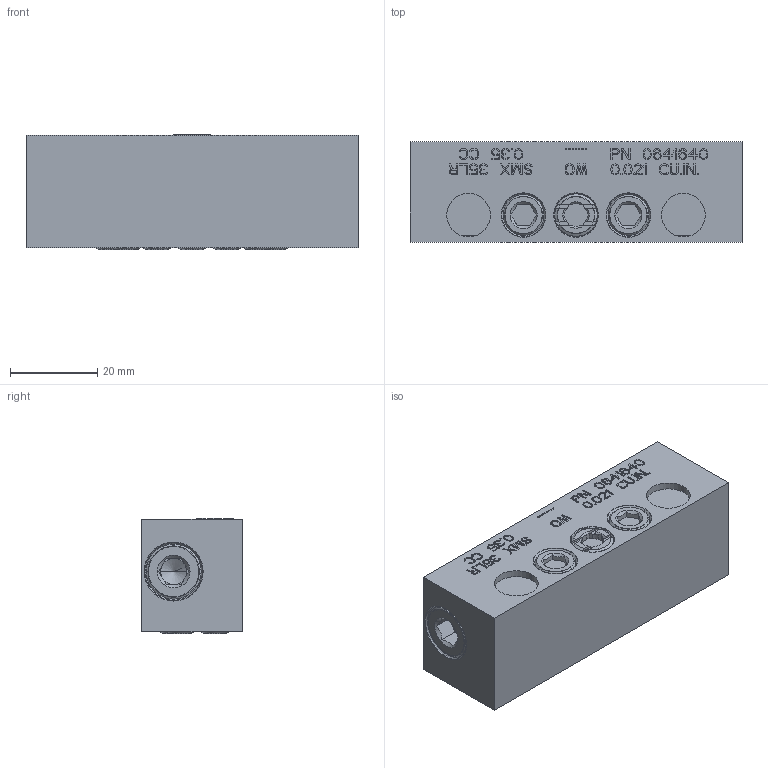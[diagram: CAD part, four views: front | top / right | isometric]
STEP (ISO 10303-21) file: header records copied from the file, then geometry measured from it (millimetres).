
FILE_DESCRIPTION((''),'2;1');
FILE_NAME('0641640_SMX_35LR','2023-07-21T12:01:02',('pietro.masciave'),(''),'CREO PARAMETRIC BY PTC INC, 2022281','CREO PARAMETRIC BY PTC INC, 2022281','');
FILE_SCHEMA(('CONFIG_CONTROL_DESIGN'));
Length unit declared in the file: millimetre
Products named in the file (1): 0641640_SMX_35LR
Bounding box: 76 x 23 x 26.33 mm (x, y, z)
Volume: 44006.9 mm3; surface area: 12656.8 mm2
Topology: 1 solids, 14 shells, 1357 faces, 3755 edges, 2495 vertices
Faces by surface type: plane 1181, cylinder 110, cone 44, torus 22
Entity records: 43779 total; most frequent: CARTESIAN_POINT 8845, ORIENTED_EDGE 7462, DIRECTION 6752, EDGE_CURVE 3751, VECTOR 3316, LINE 3316, VERTEX_POINT 2495, AXIS2_PLACEMENT_3D 1718
